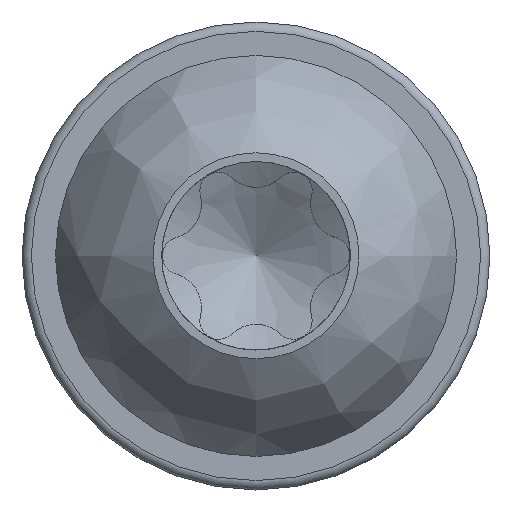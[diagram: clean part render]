
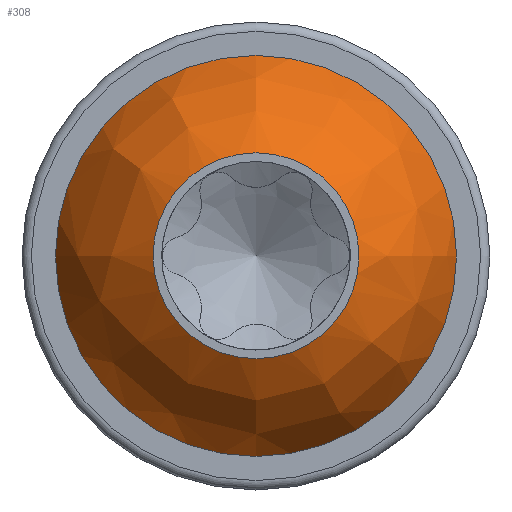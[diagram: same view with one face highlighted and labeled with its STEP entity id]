
A CAD part, top view. The second image highlights one B-rep face of the part: STEP entity #308.
In plain terms, the highlighted free-form (B-spline) face has degree [3, 3] with [4, 7] control points.
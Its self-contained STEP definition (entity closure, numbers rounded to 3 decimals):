
#248=(
BOUNDED_SURFACE()
B_SPLINE_SURFACE(3,3,((#4188,#4189,#4190,#4191,#4192,#4193,#4194),(#4195,
#4196,#4197,#4198,#4199,#4200,#4201),(#4202,#4203,#4204,#4205,#4206,#4207,
#4208),(#4209,#4210,#4211,#4212,#4213,#4214,#4215)),.UNSPECIFIED.,.F.,.T.,
 .F.)
B_SPLINE_SURFACE_WITH_KNOTS((4,4),(1,3,3,3,1),(0.,1.),(-0.5,0.,0.5,1.,1.5),
 .UNSPECIFIED.)
GEOMETRIC_REPRESENTATION_ITEM()
RATIONAL_B_SPLINE_SURFACE(((1.,0.333,0.333,1.,0.333,
0.333,1.),(0.952,0.317,0.317,
0.952,0.317,0.317,0.952),
(0.952,0.317,0.317,0.952,
0.317,0.317,0.952),(1.,0.333,
0.333,1.,0.333,0.333,1.)))
REPRESENTATION_ITEM('')
SURFACE()
);
#283=FACE_BOUND('',#492,.T.);
#284=FACE_BOUND('',#493,.T.);
#308=ADVANCED_FACE('',(#283,#284),#248,.T.);
#492=EDGE_LOOP('',(#670));
#493=EDGE_LOOP('',(#671));
#595=CIRCLE('',#1501,3.);
#596=CIRCLE('',#1503,1.54);
#670=ORIENTED_EDGE('',*,*,#1216,.F.);
#671=ORIENTED_EDGE('',*,*,#1215,.T.);
#1080=VERTEX_POINT('',#4184);
#1081=VERTEX_POINT('',#4187);
#1215=EDGE_CURVE('',#1080,#1080,#595,.T.);
#1216=EDGE_CURVE('',#1081,#1081,#596,.T.);
#1501=AXIS2_PLACEMENT_3D('',#4183,#1565,#1566);
#1503=AXIS2_PLACEMENT_3D('',#4186,#1569,#1570);
#1565=DIRECTION('',(0.,0.,1.));
#1566=DIRECTION('',(1.,0.,0.));
#1569=DIRECTION('',(0.,0.,1.));
#1570=DIRECTION('',(1.,0.,0.));
#4183=CARTESIAN_POINT('',(0.,0.,0.7));
#4184=CARTESIAN_POINT('',(3.,0.,0.7));
#4186=CARTESIAN_POINT('',(0.,0.,2.4));
#4187=CARTESIAN_POINT('',(1.54,0.,2.4));
#4188=CARTESIAN_POINT('',(1.54,0.,2.4));
#4189=CARTESIAN_POINT('',(1.54,3.08,2.4));
#4190=CARTESIAN_POINT('',(-1.54,3.08,2.4));
#4191=CARTESIAN_POINT('',(-1.54,0.,2.4));
#4192=CARTESIAN_POINT('',(-1.54,-3.08,2.4));
#4193=CARTESIAN_POINT('',(1.54,-3.08,2.4));
#4194=CARTESIAN_POINT('',(1.54,0.,2.4));
#4195=CARTESIAN_POINT('',(2.237,0.,2.039));
#4196=CARTESIAN_POINT('',(2.237,4.473,2.039));
#4197=CARTESIAN_POINT('',(-2.237,4.473,2.039));
#4198=CARTESIAN_POINT('',(-2.237,0.,2.039));
#4199=CARTESIAN_POINT('',(-2.237,-4.473,2.039));
#4200=CARTESIAN_POINT('',(2.237,-4.473,2.039));
#4201=CARTESIAN_POINT('',(2.237,0.,2.039));
#4202=CARTESIAN_POINT('',(2.748,0.,1.443));
#4203=CARTESIAN_POINT('',(2.748,5.496,1.443));
#4204=CARTESIAN_POINT('',(-2.748,5.496,1.443));
#4205=CARTESIAN_POINT('',(-2.748,0.,1.443));
#4206=CARTESIAN_POINT('',(-2.748,-5.496,1.443));
#4207=CARTESIAN_POINT('',(2.748,-5.496,1.443));
#4208=CARTESIAN_POINT('',(2.748,0.,1.443));
#4209=CARTESIAN_POINT('',(3.,0.,0.7));
#4210=CARTESIAN_POINT('',(3.,6.,0.7));
#4211=CARTESIAN_POINT('',(-3.,6.,0.7));
#4212=CARTESIAN_POINT('',(-3.,0.,0.7));
#4213=CARTESIAN_POINT('',(-3.,-6.,0.7));
#4214=CARTESIAN_POINT('',(3.,-6.,0.7));
#4215=CARTESIAN_POINT('',(3.,0.,0.7));
